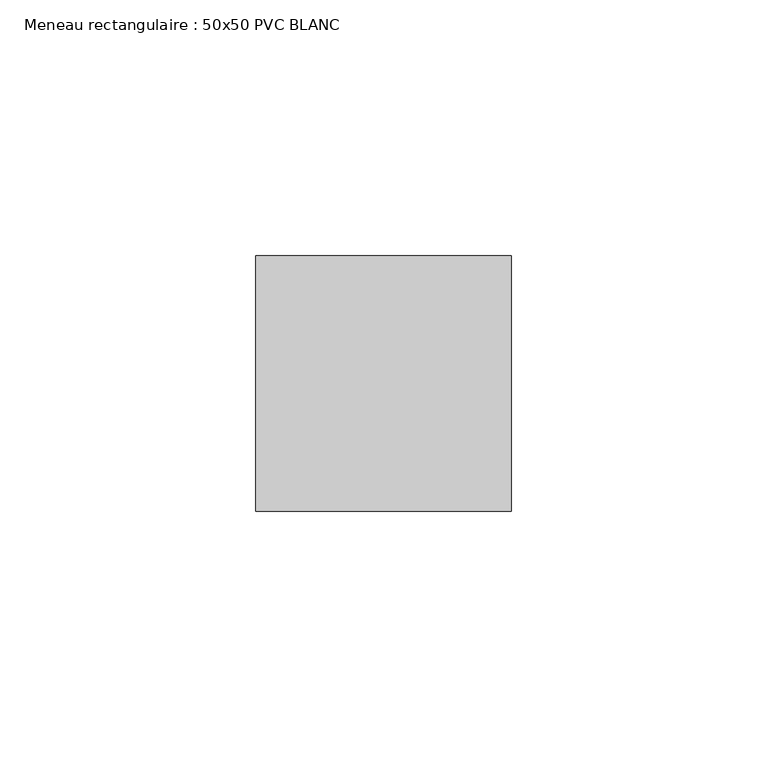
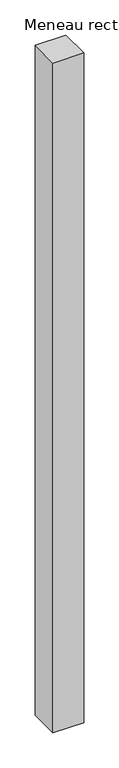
"""IFC4 building model written with IfcOpenShell, lengths in millimetres: member geometry, Meneau rectangulaire : 50x50 PVC BLANC."""

from ifc_helpers import new_model, si_unit, frame, origin, place, context, project, spatial, polyline, outline, extrude, source, transform, mapped, element, save


def meneau_rectangulaire_50x50_pvc_blanc_5d594392(model_context):
    return source(origin(), model_context, "Body", "SweptSolid", [
        extrude(outline(polyline([(0.0, 0.0), (0.0, -50.0), (-50.0, -50.0), (-50.0, 0.0), (0.0, 0.0)])), frame((0.0, 0.0, -1157.0), z_axis=(0.0, 0.0, 1.0), x_axis=(1.0, 0.0, 0.0)), (0.0, 0.0, 1.0), 1157.0),
    ])


if __name__ == "__main__":
    model = new_model("IFC4")
    model_context = context("Model", 3, world=origin())
    ifc_project = project(units=[si_unit("LENGTHUNIT", "METRE", prefix="MILLI")], contexts=[model_context])
    site = spatial("IfcSite", under=ifc_project)
    building = spatial("IfcBuilding", under=site)
    placement = place(None, origin())
    meneau_rectangulaire_50x50_pvc_blanc_shape = meneau_rectangulaire_50x50_pvc_blanc_5d594392(model_context)
    element("IfcMember", 1, ObjectType="Meneau rectangulaire : 50x50 PVC BLANC", at=placement, inside=building, context=model_context, shape_type="MappedRepresentation", body=[
        mapped(meneau_rectangulaire_50x50_pvc_blanc_shape, transform((0.0, 0.0, 0.0), x_axis=(1.0, 0.0, 0.0), y_axis=(0.0, 1.0, 0.0), z_axis=(0.0, 0.0, 1.0))),
    ])
    save(model, "model.ifc")
